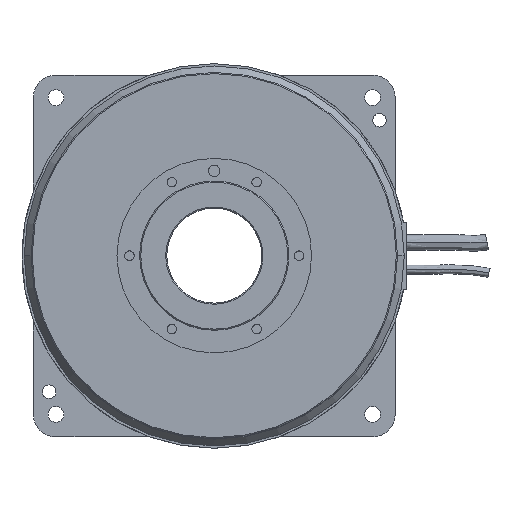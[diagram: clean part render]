
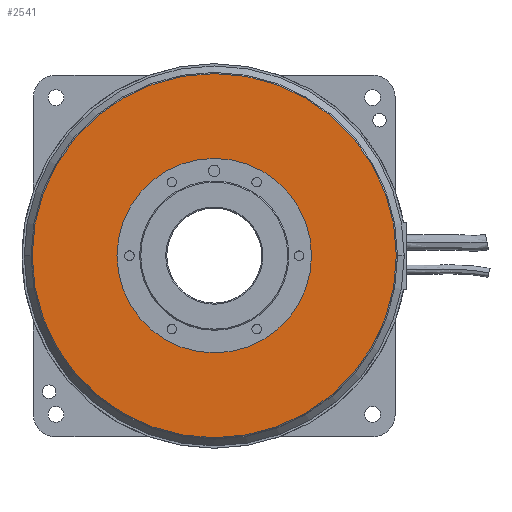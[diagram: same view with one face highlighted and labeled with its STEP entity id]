
A CAD part, top view. The second image highlights one B-rep face of the part: STEP entity #2541.
In plain terms, the highlighted planar face has unit normal (0, 0, 1).
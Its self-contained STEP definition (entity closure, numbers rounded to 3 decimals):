
#61 = FACE_BOUND ( 'NONE', #608, .T. ) ;
#211 = CIRCLE ( 'NONE', #3046, 80.5 ) ;
#233 = CARTESIAN_POINT ( 'NONE',  ( 43., 0., 96.5 ) ) ;
#320 = ORIENTED_EDGE ( 'NONE', *, *, #3205, .T. ) ;
#498 = EDGE_LOOP ( 'NONE', ( #320, #645 ) ) ;
#599 = CIRCLE ( 'NONE', #2270, 43. ) ;
#608 = EDGE_LOOP ( 'NONE', ( #694, #822 ) ) ;
#645 = ORIENTED_EDGE ( 'NONE', *, *, #4178, .T. ) ;
#694 = ORIENTED_EDGE ( 'NONE', *, *, #3059, .F. ) ;
#763 = DIRECTION ( 'NONE',  ( -1., 0., 0. ) ) ;
#793 = DIRECTION ( 'NONE',  ( 0., 0., -1. ) ) ;
#822 = ORIENTED_EDGE ( 'NONE', *, *, #1383, .F. ) ;
#1000 = FACE_OUTER_BOUND ( 'NONE', #498, .T. ) ;
#1285 = CIRCLE ( 'NONE', #3529, 43. ) ;
#1383 = EDGE_CURVE ( 'NONE', #2896, #2262, #599, .T. ) ;
#1448 = CIRCLE ( 'NONE', #3475, 80.5 ) ;
#1551 = CARTESIAN_POINT ( 'NONE',  ( 0., 43., 96.5 ) ) ;
#1658 = DIRECTION ( 'NONE',  ( -1., 0., 0. ) ) ;
#1822 = DIRECTION ( 'NONE',  ( 0., 0., 1. ) ) ;
#1832 = CARTESIAN_POINT ( 'NONE',  ( 0., 0., 96.5 ) ) ;
#2081 = AXIS2_PLACEMENT_3D ( 'NONE', #1551, #793, #763 ) ;
#2104 = PLANE ( 'NONE',  #2081 ) ;
#2190 = CARTESIAN_POINT ( 'NONE',  ( 80.5, 0., 96.5 ) ) ;
#2224 = CARTESIAN_POINT ( 'NONE',  ( -43., 0., 96.5 ) ) ;
#2262 = VERTEX_POINT ( 'NONE', #233 ) ;
#2270 = AXIS2_PLACEMENT_3D ( 'NONE', #2455, #2426, #2408 ) ;
#2408 = DIRECTION ( 'NONE',  ( 1., 0., 0. ) ) ;
#2426 = DIRECTION ( 'NONE',  ( 0., 0., 1. ) ) ;
#2455 = CARTESIAN_POINT ( 'NONE',  ( 0., 0., 96.5 ) ) ;
#2541 = ADVANCED_FACE ( 'NONE', ( #1000, #61 ), #2104, .F. ) ;
#2852 = VERTEX_POINT ( 'NONE', #3657 ) ;
#2896 = VERTEX_POINT ( 'NONE', #2224 ) ;
#3044 = DIRECTION ( 'NONE',  ( -1., 0., 0. ) ) ;
#3046 = AXIS2_PLACEMENT_3D ( 'NONE', #1832, #1822, #1658 ) ;
#3059 = EDGE_CURVE ( 'NONE', #2262, #2896, #1285, .T. ) ;
#3198 = VERTEX_POINT ( 'NONE', #2190 ) ;
#3205 = EDGE_CURVE ( 'NONE', #2852, #3198, #211, .T. ) ;
#3319 = CARTESIAN_POINT ( 'NONE',  ( 0., 0., 96.5 ) ) ;
#3475 = AXIS2_PLACEMENT_3D ( 'NONE', #3319, #4024, #3044 ) ;
#3529 = AXIS2_PLACEMENT_3D ( 'NONE', #4226, #4214, #4176 ) ;
#3657 = CARTESIAN_POINT ( 'NONE',  ( -80.5, 0., 96.5 ) ) ;
#4024 = DIRECTION ( 'NONE',  ( 0., 0., 1. ) ) ;
#4176 = DIRECTION ( 'NONE',  ( 1., 0., 0. ) ) ;
#4178 = EDGE_CURVE ( 'NONE', #3198, #2852, #1448, .T. ) ;
#4214 = DIRECTION ( 'NONE',  ( 0., 0., 1. ) ) ;
#4226 = CARTESIAN_POINT ( 'NONE',  ( 0., 0., 96.5 ) ) ;
